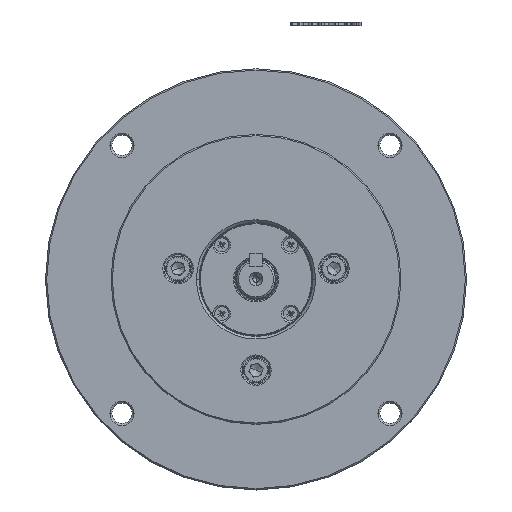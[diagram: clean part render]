
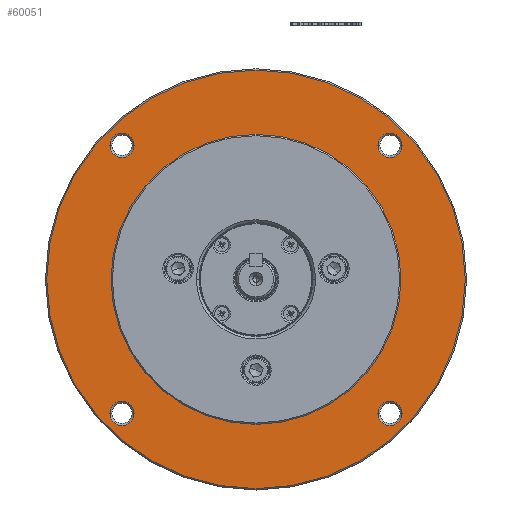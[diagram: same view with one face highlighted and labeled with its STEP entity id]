
A CAD part, top view. The second image highlights one B-rep face of the part: STEP entity #60051.
In plain terms, the highlighted planar face has unit normal (0, 0, 1).
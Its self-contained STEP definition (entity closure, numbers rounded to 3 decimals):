
#615 = ORIENTED_EDGE ( 'NONE', *, *, #10900, .F. ) ;
#1228 = DIRECTION ( 'NONE',  ( 1., 0., 0. ) ) ;
#2297 = AXIS2_PLACEMENT_3D ( 'NONE', #5552, #17207, #58271 ) ;
#2601 = CARTESIAN_POINT ( 'NONE',  ( 48.058, -48.821, 40.325 ) ) ;
#4808 = PLANE ( 'NONE',  #67808 ) ;
#5145 = ORIENTED_EDGE ( 'NONE', *, *, #7335, .F. ) ;
#5552 = CARTESIAN_POINT ( 'NONE',  ( -52.821, 56.821, 40.325 ) ) ;
#5647 = DIRECTION ( 'NONE',  ( 0., 0., -1. ) ) ;
#7335 = EDGE_CURVE ( 'NONE', #11775, #7381, #40373, .T. ) ;
#7381 = VERTEX_POINT ( 'NONE', #46223 ) ;
#7638 = EDGE_LOOP ( 'NONE', ( #20208, #37029 ) ) ;
#8021 = AXIS2_PLACEMENT_3D ( 'NONE', #45849, #5647, #69530 ) ;
#8739 = AXIS2_PLACEMENT_3D ( 'NONE', #29557, #58608, #64443 ) ;
#9512 = CARTESIAN_POINT ( 'NONE',  ( -82.5, 4., 40.325 ) ) ;
#10244 = AXIS2_PLACEMENT_3D ( 'NONE', #63841, #29214, #35094 ) ;
#10900 = EDGE_CURVE ( 'NONE', #72699, #41266, #31508, .T. ) ;
#11775 = VERTEX_POINT ( 'NONE', #30893 ) ;
#13026 = AXIS2_PLACEMENT_3D ( 'NONE', #25024, #58850, #42770 ) ;
#13331 = ORIENTED_EDGE ( 'NONE', *, *, #60015, .F. ) ;
#15020 = VERTEX_POINT ( 'NONE', #33885 ) ;
#15986 = DIRECTION ( 'NONE',  ( 1., 0., 0. ) ) ;
#16498 = EDGE_LOOP ( 'NONE', ( #5145, #13331 ) ) ;
#17207 = DIRECTION ( 'NONE',  ( 0., 0., 1. ) ) ;
#17515 = EDGE_CURVE ( 'NONE', #60727, #64439, #60884, .T. ) ;
#18027 = CARTESIAN_POINT ( 'NONE',  ( 57.583, -48.821, 40.325 ) ) ;
#18301 = EDGE_LOOP ( 'NONE', ( #615, #55559 ) ) ;
#19063 = CARTESIAN_POINT ( 'NONE',  ( 57.583, 56.821, 40.325 ) ) ;
#19505 = DIRECTION ( 'NONE',  ( 1., 0., 0. ) ) ;
#20208 = ORIENTED_EDGE ( 'NONE', *, *, #59759, .T. ) ;
#20414 = ORIENTED_EDGE ( 'NONE', *, *, #41852, .F. ) ;
#21004 = CARTESIAN_POINT ( 'NONE',  ( 0., 61.15, 40.325 ) ) ;
#21258 = DIRECTION ( 'NONE',  ( 1., 0., 0. ) ) ;
#21740 = DIRECTION ( 'NONE',  ( 0., 0., 1. ) ) ;
#23655 = CIRCLE ( 'NONE', #26203, 4.762 ) ;
#23870 = FACE_OUTER_BOUND ( 'NONE', #71663, .T. ) ;
#24357 = CARTESIAN_POINT ( 'NONE',  ( -48.058, 56.821, 40.325 ) ) ;
#25024 = CARTESIAN_POINT ( 'NONE',  ( 0., 4., 40.325 ) ) ;
#25215 = DIRECTION ( 'NONE',  ( 0., 0., 1. ) ) ;
#26203 = AXIS2_PLACEMENT_3D ( 'NONE', #45202, #67878, #33274 ) ;
#26921 = VERTEX_POINT ( 'NONE', #2601 ) ;
#27205 = ORIENTED_EDGE ( 'NONE', *, *, #64383, .F. ) ;
#28477 = AXIS2_PLACEMENT_3D ( 'NONE', #67222, #50511, #15986 ) ;
#29214 = DIRECTION ( 'NONE',  ( 0., 0., 1. ) ) ;
#29557 = CARTESIAN_POINT ( 'NONE',  ( 52.821, -48.821, 40.325 ) ) ;
#30893 = CARTESIAN_POINT ( 'NONE',  ( -48.058, -48.821, 40.325 ) ) ;
#31013 = VERTEX_POINT ( 'NONE', #9512 ) ;
#31274 = EDGE_CURVE ( 'NONE', #31013, #52506, #50119, .T. ) ;
#31508 = CIRCLE ( 'NONE', #2297, 4.762 ) ;
#31989 = CIRCLE ( 'NONE', #51689, 4.763 ) ;
#32357 = ORIENTED_EDGE ( 'NONE', *, *, #59641, .F. ) ;
#33274 = DIRECTION ( 'NONE',  ( 1., 0., 0. ) ) ;
#33885 = CARTESIAN_POINT ( 'NONE',  ( 57.15, 4., 40.325 ) ) ;
#35094 = DIRECTION ( 'NONE',  ( 1., 0., 0. ) ) ;
#35679 = FACE_BOUND ( 'NONE', #7638, .T. ) ;
#37015 = CARTESIAN_POINT ( 'NONE',  ( 52.821, 56.821, 40.325 ) ) ;
#37029 = ORIENTED_EDGE ( 'NONE', *, *, #60108, .T. ) ;
#37908 = CIRCLE ( 'NONE', #41167, 82.5 ) ;
#39827 = ORIENTED_EDGE ( 'NONE', *, *, #45420, .F. ) ;
#40373 = CIRCLE ( 'NONE', #10244, 4.762 ) ;
#41167 = AXIS2_PLACEMENT_3D ( 'NONE', #47943, #58477, #41886 ) ;
#41266 = VERTEX_POINT ( 'NONE', #61361 ) ;
#41852 = EDGE_CURVE ( 'NONE', #52506, #31013, #37908, .T. ) ;
#41886 = DIRECTION ( 'NONE',  ( -1., 0., 0. ) ) ;
#42594 = CARTESIAN_POINT ( 'NONE',  ( 82.5, 4., 40.325 ) ) ;
#42770 = DIRECTION ( 'NONE',  ( -1., 0., 0. ) ) ;
#42836 = DIRECTION ( 'NONE',  ( 0., 0., 1. ) ) ;
#44752 = AXIS2_PLACEMENT_3D ( 'NONE', #37015, #42836, #59178 ) ;
#45202 = CARTESIAN_POINT ( 'NONE',  ( -52.821, 56.821, 40.325 ) ) ;
#45420 = EDGE_CURVE ( 'NONE', #26921, #47478, #69576, .T. ) ;
#45849 = CARTESIAN_POINT ( 'NONE',  ( 0., 4., 40.325 ) ) ;
#46223 = CARTESIAN_POINT ( 'NONE',  ( -57.583, -48.821, 40.325 ) ) ;
#47478 = VERTEX_POINT ( 'NONE', #18027 ) ;
#47740 = CARTESIAN_POINT ( 'NONE',  ( 52.821, 56.821, 40.325 ) ) ;
#47943 = CARTESIAN_POINT ( 'NONE',  ( 0., 4., 40.325 ) ) ;
#48346 = CIRCLE ( 'NONE', #13026, 57.15 ) ;
#49160 = CIRCLE ( 'NONE', #60019, 57.15 ) ;
#50119 = CIRCLE ( 'NONE', #8021, 82.5 ) ;
#50511 = DIRECTION ( 'NONE',  ( 0., 0., 1. ) ) ;
#50993 = FACE_BOUND ( 'NONE', #18301, .T. ) ;
#51231 = DIRECTION ( 'NONE',  ( 0., 0., -1. ) ) ;
#51355 = ORIENTED_EDGE ( 'NONE', *, *, #31274, .F. ) ;
#51689 = AXIS2_PLACEMENT_3D ( 'NONE', #47740, #25215, #1228 ) ;
#52506 = VERTEX_POINT ( 'NONE', #42594 ) ;
#53066 = ORIENTED_EDGE ( 'NONE', *, *, #17515, .F. ) ;
#53640 = EDGE_LOOP ( 'NONE', ( #32357, #39827 ) ) ;
#54600 = FACE_BOUND ( 'NONE', #16498, .T. ) ;
#55450 = CIRCLE ( 'NONE', #28477, 4.762 ) ;
#55559 = ORIENTED_EDGE ( 'NONE', *, *, #60560, .F. ) ;
#58271 = DIRECTION ( 'NONE',  ( 1., 0., 0. ) ) ;
#58477 = DIRECTION ( 'NONE',  ( 0., 0., -1. ) ) ;
#58608 = DIRECTION ( 'NONE',  ( 0., 0., 1. ) ) ;
#58850 = DIRECTION ( 'NONE',  ( 0., 0., -1. ) ) ;
#59088 = FACE_BOUND ( 'NONE', #53640, .T. ) ;
#59178 = DIRECTION ( 'NONE',  ( 1., 0., 0. ) ) ;
#59641 = EDGE_CURVE ( 'NONE', #47478, #26921, #68281, .T. ) ;
#59759 = EDGE_CURVE ( 'NONE', #74307, #15020, #48346, .T. ) ;
#60015 = EDGE_CURVE ( 'NONE', #7381, #11775, #55450, .T. ) ;
#60019 = AXIS2_PLACEMENT_3D ( 'NONE', #63595, #51231, #69423 ) ;
#60051 = ADVANCED_FACE ( 'NONE', ( #50993, #71819, #54600, #59088, #35679, #23870 ), #4808, .T. ) ;
#60108 = EDGE_CURVE ( 'NONE', #15020, #74307, #49160, .T. ) ;
#60560 = EDGE_CURVE ( 'NONE', #41266, #72699, #23655, .T. ) ;
#60727 = VERTEX_POINT ( 'NONE', #19063 ) ;
#60884 = CIRCLE ( 'NONE', #44752, 4.763 ) ;
#61071 = CARTESIAN_POINT ( 'NONE',  ( 48.058, 56.821, 40.325 ) ) ;
#61361 = CARTESIAN_POINT ( 'NONE',  ( -57.583, 56.821, 40.325 ) ) ;
#63193 = AXIS2_PLACEMENT_3D ( 'NONE', #65420, #71214, #19505 ) ;
#63595 = CARTESIAN_POINT ( 'NONE',  ( 0., 4., 40.325 ) ) ;
#63841 = CARTESIAN_POINT ( 'NONE',  ( -52.821, -48.821, 40.325 ) ) ;
#64383 = EDGE_CURVE ( 'NONE', #64439, #60727, #31989, .T. ) ;
#64439 = VERTEX_POINT ( 'NONE', #61071 ) ;
#64443 = DIRECTION ( 'NONE',  ( 1., 0., 0. ) ) ;
#65420 = CARTESIAN_POINT ( 'NONE',  ( 52.821, -48.821, 40.325 ) ) ;
#67222 = CARTESIAN_POINT ( 'NONE',  ( -52.821, -48.821, 40.325 ) ) ;
#67808 = AXIS2_PLACEMENT_3D ( 'NONE', #21004, #21740, #21258 ) ;
#67878 = DIRECTION ( 'NONE',  ( 0., 0., 1. ) ) ;
#68281 = CIRCLE ( 'NONE', #8739, 4.763 ) ;
#69423 = DIRECTION ( 'NONE',  ( -1., 0., 0. ) ) ;
#69530 = DIRECTION ( 'NONE',  ( -1., 0., 0. ) ) ;
#69576 = CIRCLE ( 'NONE', #63193, 4.763 ) ;
#70587 = EDGE_LOOP ( 'NONE', ( #53066, #27205 ) ) ;
#70807 = CARTESIAN_POINT ( 'NONE',  ( -57.15, 4., 40.325 ) ) ;
#71214 = DIRECTION ( 'NONE',  ( 0., 0., 1. ) ) ;
#71663 = EDGE_LOOP ( 'NONE', ( #51355, #20414 ) ) ;
#71819 = FACE_BOUND ( 'NONE', #70587, .T. ) ;
#72699 = VERTEX_POINT ( 'NONE', #24357 ) ;
#74307 = VERTEX_POINT ( 'NONE', #70807 ) ;
